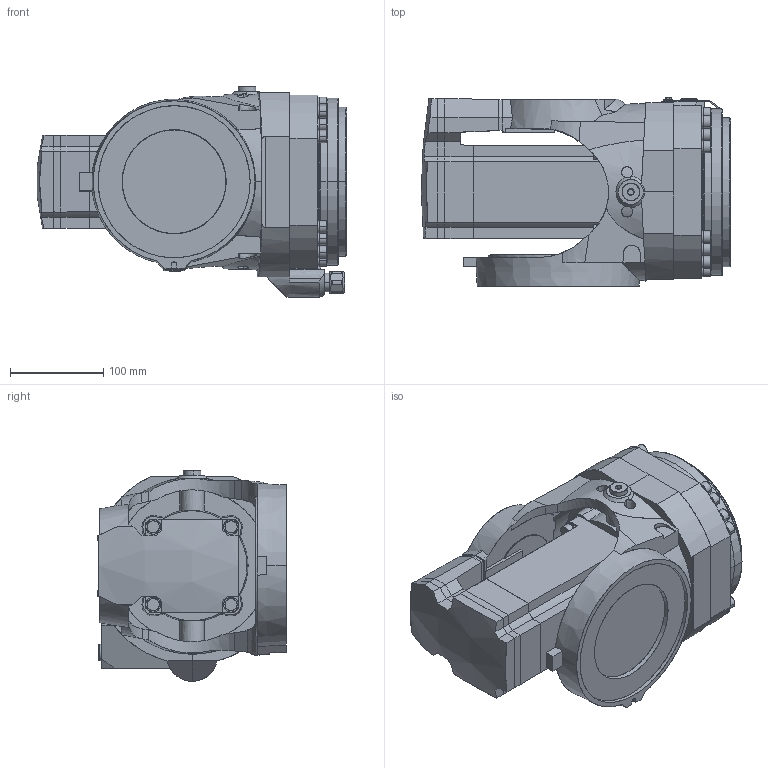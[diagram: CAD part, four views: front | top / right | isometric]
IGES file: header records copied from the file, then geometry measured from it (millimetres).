
Start section: SolidWorks IGES file using analytic representation for surfaces
Global section: file name: C:\Data\SAP_DOC\IRB6740_lightweight\6740_ASM\IRB6740_310kg-280_OC_02_SW_J\IRB6740_310kg-280_OC_02_IGES_J\IRB6740_310kg-280_OC_02_LINK05_CAD.igs; native system: SolidWorks 2024; preprocessor: SolidWorks 2024; author: SEJAOLS6; date: 260506.155302; units: millimetre
Bounding box: 331.69 x 202.28 x 226 mm (x, y, z)
Surface area: 417777.4 mm2 (no closed solid volume)
Topology: 0 solids, 0 shells, 757 faces, 12041 edges, 12036 vertices
Faces by surface type: bspline 441, revolution 316
